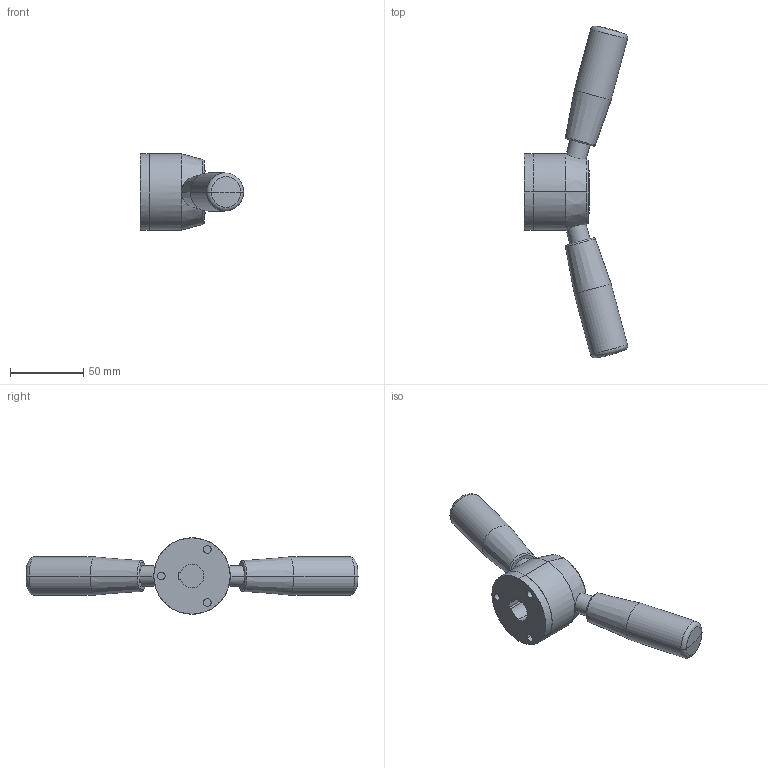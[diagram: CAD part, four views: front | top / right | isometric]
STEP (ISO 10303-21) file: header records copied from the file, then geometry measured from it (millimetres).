
FILE_DESCRIPTION (( 'STEP AP214' ), '1' );
FILE_NAME ('200-52-K16-C.step', '2020-04-17T17:56:20', ( '' ), ( '' ), 'SwSTEP 2.0', 'SolidWorks 2019', '' );
FILE_SCHEMA (( 'AUTOMOTIVE_DESIGN' ));
Length unit declared in the file: millimetre
Products named in the file (1): 200-52-K16-C
Bounding box: 70.25 x 226.12 x 52 mm (x, y, z)
Volume: 161073.1 mm3; surface area: 27252.6 mm2
Topology: 1 solids, 1 shells, 70 faces, 165 edges, 102 vertices
Faces by surface type: cylinder 21, plane 21, cone 16, torus 8, sphere 4
Entity records: 2639 total; most frequent: CARTESIAN_POINT 542, DIRECTION 378, ORIENTED_EDGE 330, EDGE_CURVE 165, AXIS2_PLACEMENT_3D 157, VERTEX_POINT 102, CIRCLE 86, EDGE_LOOP 81
